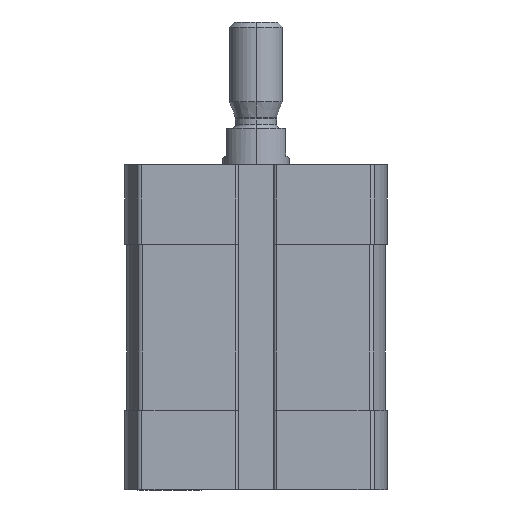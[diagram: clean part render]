
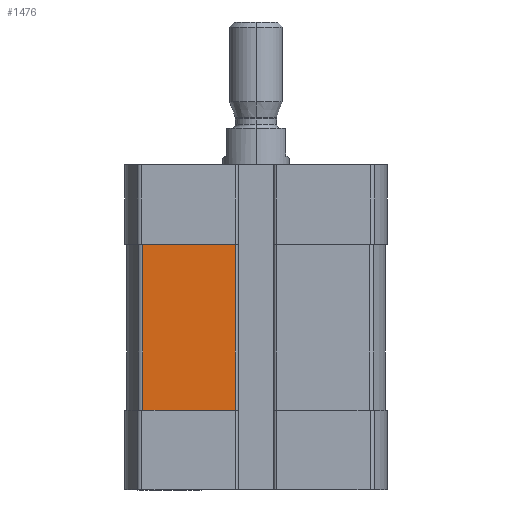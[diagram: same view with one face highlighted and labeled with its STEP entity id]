
A CAD part, left-side view. The second image highlights one B-rep face of the part: STEP entity #1476.
In plain terms, the highlighted planar face has unit normal (-1, 0, 0).
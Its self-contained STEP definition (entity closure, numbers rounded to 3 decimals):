
#209 = DIRECTION ( 'NONE',  ( 0., 0., 1. ) ) ;
#423 = CARTESIAN_POINT ( 'NONE',  ( -19.5, 17.091, -12. ) ) ;
#534 = AXIS2_PLACEMENT_3D ( 'NONE', #696, #3934, #836 ) ;
#696 = CARTESIAN_POINT ( 'NONE',  ( -19.5, 17.091, -37. ) ) ;
#705 = ORIENTED_EDGE ( 'NONE', *, *, #4590, .T. ) ;
#815 = CARTESIAN_POINT ( 'NONE',  ( -19.5, 17.091, -37. ) ) ;
#836 = DIRECTION ( 'NONE',  ( 0., 0., 1. ) ) ;
#1010 = ORIENTED_EDGE ( 'NONE', *, *, #10786, .T. ) ;
#1137 = EDGE_CURVE ( 'NONE', #12482, #11527, #12143, .T. ) ;
#1476 = ADVANCED_FACE ( 'NONE', ( #3476 ), #6589, .T. ) ;
#3476 = FACE_OUTER_BOUND ( 'NONE', #12648, .T. ) ;
#3934 = DIRECTION ( 'NONE',  ( -1., 0., 0. ) ) ;
#4590 = EDGE_CURVE ( 'NONE', #11527, #6593, #7728, .T. ) ;
#6589 = PLANE ( 'NONE',  #534 ) ;
#6593 = VERTEX_POINT ( 'NONE', #7175 ) ;
#6715 = VECTOR ( 'NONE', #12370, 1000. ) ;
#6922 = DIRECTION ( 'NONE',  ( 0., -1., 0. ) ) ;
#7175 = CARTESIAN_POINT ( 'NONE',  ( -19.5, 3.1, -37. ) ) ;
#7347 = CARTESIAN_POINT ( 'NONE',  ( -19.5, 3.1, -37. ) ) ;
#7378 = LINE ( 'NONE', #12259, #7691 ) ;
#7691 = VECTOR ( 'NONE', #9243, 1000. ) ;
#7728 = LINE ( 'NONE', #815, #11077 ) ;
#8106 = ORIENTED_EDGE ( 'NONE', *, *, #8972, .T. ) ;
#8793 = VECTOR ( 'NONE', #209, 1000. ) ;
#8972 = EDGE_CURVE ( 'NONE', #11223, #12482, #7378, .T. ) ;
#9243 = DIRECTION ( 'NONE',  ( 0., 1., 0. ) ) ;
#10623 = CARTESIAN_POINT ( 'NONE',  ( -19.5, 17.091, -37. ) ) ;
#10786 = EDGE_CURVE ( 'NONE', #6593, #11223, #11492, .T. ) ;
#11077 = VECTOR ( 'NONE', #6922, 1000. ) ;
#11223 = VERTEX_POINT ( 'NONE', #13218 ) ;
#11492 = LINE ( 'NONE', #7347, #8793 ) ;
#11527 = VERTEX_POINT ( 'NONE', #12753 ) ;
#11854 = ORIENTED_EDGE ( 'NONE', *, *, #1137, .T. ) ;
#12143 = LINE ( 'NONE', #10623, #6715 ) ;
#12259 = CARTESIAN_POINT ( 'NONE',  ( -19.5, 0., -12. ) ) ;
#12370 = DIRECTION ( 'NONE',  ( 0., 0., -1. ) ) ;
#12482 = VERTEX_POINT ( 'NONE', #423 ) ;
#12648 = EDGE_LOOP ( 'NONE', ( #705, #1010, #8106, #11854 ) ) ;
#12753 = CARTESIAN_POINT ( 'NONE',  ( -19.5, 17.091, -37. ) ) ;
#13218 = CARTESIAN_POINT ( 'NONE',  ( -19.5, 3.1, -12. ) ) ;
